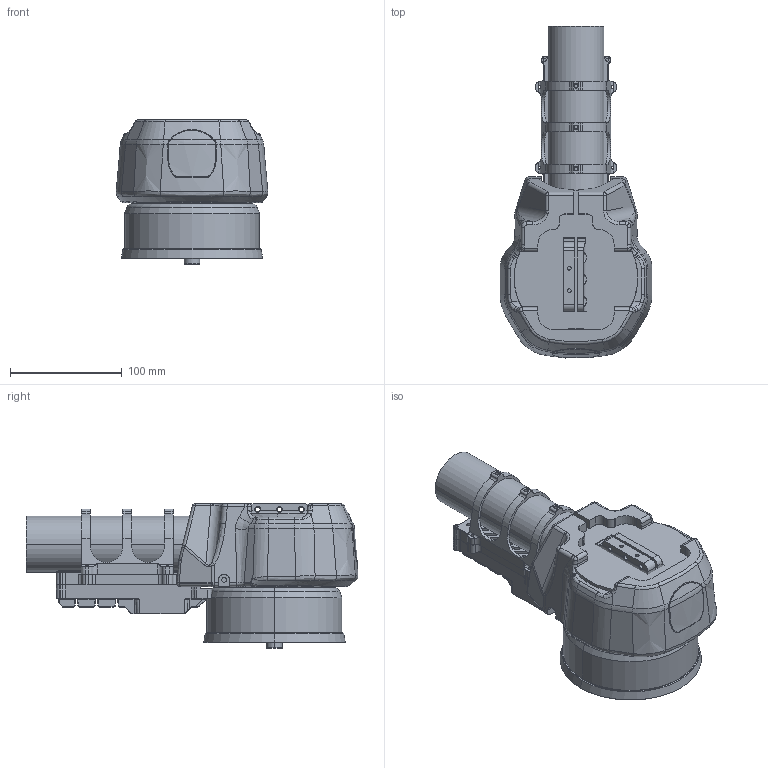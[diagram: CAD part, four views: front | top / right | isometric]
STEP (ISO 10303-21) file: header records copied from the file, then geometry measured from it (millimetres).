
FILE_DESCRIPTION (( 'STEP AP203' ), '1' );
FILE_NAME ('A12XL.STEP', '2024-05-31T02:06:27', ( '' ), ( '' ), 'SwSTEP 2.0', 'SolidWorks 2022', '' );
FILE_SCHEMA (( 'CONFIG_CONTROL_DESIGN' ));
Length unit declared in the file: millimetre
Products named in the file (1): A12XL
Bounding box: 135.67 x 296.58 x 129.1 mm (x, y, z)
Volume: 1947863.5 mm3; surface area: 312905 mm2
Topology: 9 solids, 11 shells, 2896 faces, 7594 edges, 4695 vertices
Faces by surface type: cylinder 1126, plane 942, bspline 583, cone 119, torus 100, sphere 26
Entity records: 105897 total; most frequent: CARTESIAN_POINT 39140, ORIENTED_EDGE 15156, DIRECTION 12856, EDGE_CURVE 7578, VERTEX_POINT 4693, AXIS2_PLACEMENT_3D 4553, VECTOR 3750, LINE 3750
